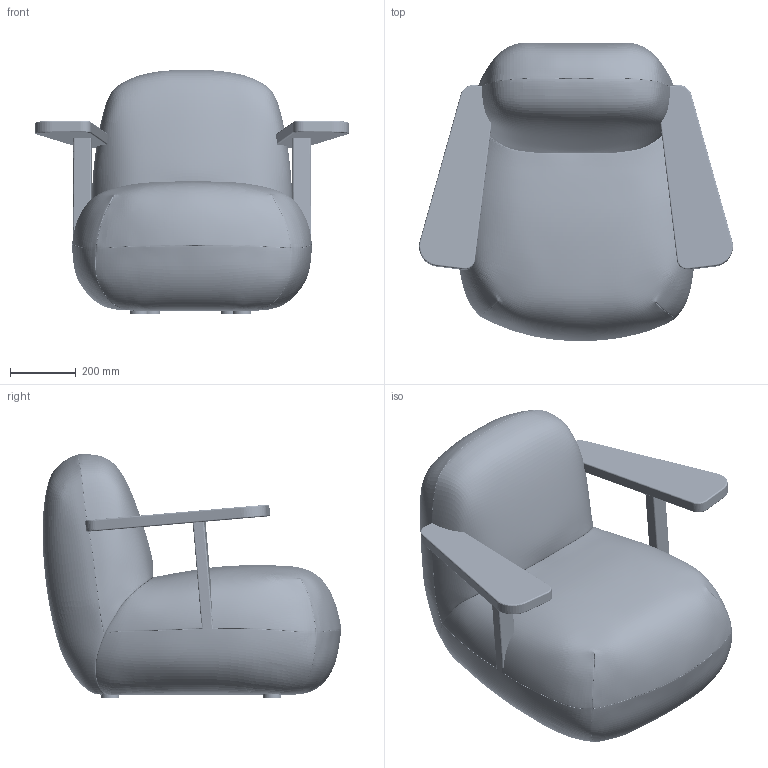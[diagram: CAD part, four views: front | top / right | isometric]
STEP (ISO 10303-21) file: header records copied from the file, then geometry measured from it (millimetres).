
FILE_DESCRIPTION(/* description */ (''),/* implementation_level */ '2;1');
FILE_NAME(/* name */ 'Toe Chair Armrest',/* time_stamp */ '2026-08-24T13:33:54+02:00',/* author */ (''),/* organization */ (''),/* preprocessor_version */ 'ST-DEVELOPER v16.5',/* originating_system */ 'Rhino 7.38',/* authorisation */ '');
FILE_SCHEMA (('CONFIG_CONTROL_DESIGN'));
Products named in the file (1): Document
Bounding box: 952.27 x 905.94 x 740 mm (x, y, z)
Volume: 6875356.3 mm3; surface area: 2787469.6 mm2
Topology: 8 solids, 10 shells, 55402 faces, 110776 edges, 55392 vertices
Faces by surface type: bspline 49506, plane 5868, cylinder 28
Entity records: 1212506 total; most frequent: CARTESIAN_POINT 481157, ORIENTED_EDGE 220992, EDGE_CURVE 110776, B_SPLINE_CURVE_WITH_KNOTS 110694, ADVANCED_FACE 55402, FACE_OUTER_BOUND 55402, EDGE_LOOP 55402, VERTEX_POINT 55392
